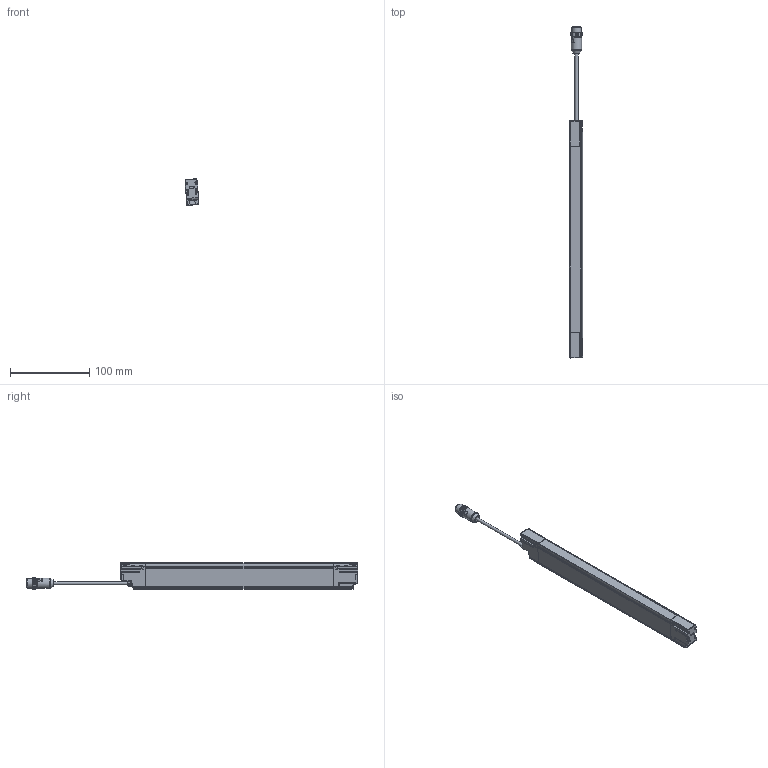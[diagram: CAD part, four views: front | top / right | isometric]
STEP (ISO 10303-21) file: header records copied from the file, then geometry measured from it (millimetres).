
FILE_DESCRIPTION(/* description */ (''),/* implementation_level */ '2;1');
FILE_NAME(/* name */ 'DSD-0625_SLx-xx-0300 _stp.stp',/* time_stamp */ '2017-12-05T13:43:43+01:00',/* author */ ('CC2'),/* organization */ ('Leuze electronic'),/* preprocessor_version */ 'ST-DEVELOPER v16',/* originating_system */ 'SIEMENS PLM Software NX 11.0',/* authorisation */ '');
FILE_SCHEMA (('AUTOMOTIVE_DESIGN { 1 0 10303 214 3 1 1 1 }'));
Length unit declared in the file: millimetre
Products named in the file (1): DSD-0625_SLx-xx-0300 _stp
Bounding box: 17.36 x 420.24 x 33.46 mm (x, y, z)
Surface area: 38939.9 mm2 (no closed solid volume)
Topology: 0 solids, 631 shells, 1077 faces, 4703 edges, 4185 vertices
Faces by surface type: cylinder 391, plane 307, bspline 155, torus 112, sphere 69, cone 43
Full cylindrical faces by diameter (mm): 1 x5, 1.2 x2, 2.6 x6, 4 x1, 8.3 x1, 9.4 x1, 10.4 x1, 12 x1, 13 x1, 13.5 x1, 14.5 x2
Entity records: 67890 total; most frequent: CARTESIAN_POINT 33006, ORIENTED_EDGE 5403, EDGE_CURVE 4544, VERTEX_POINT 4135, DIRECTION 4098, B_SPLINE_CURVE_WITH_KNOTS 2637, AXIS2_PLACEMENT_3D 1656, EDGE_LOOP 1152
